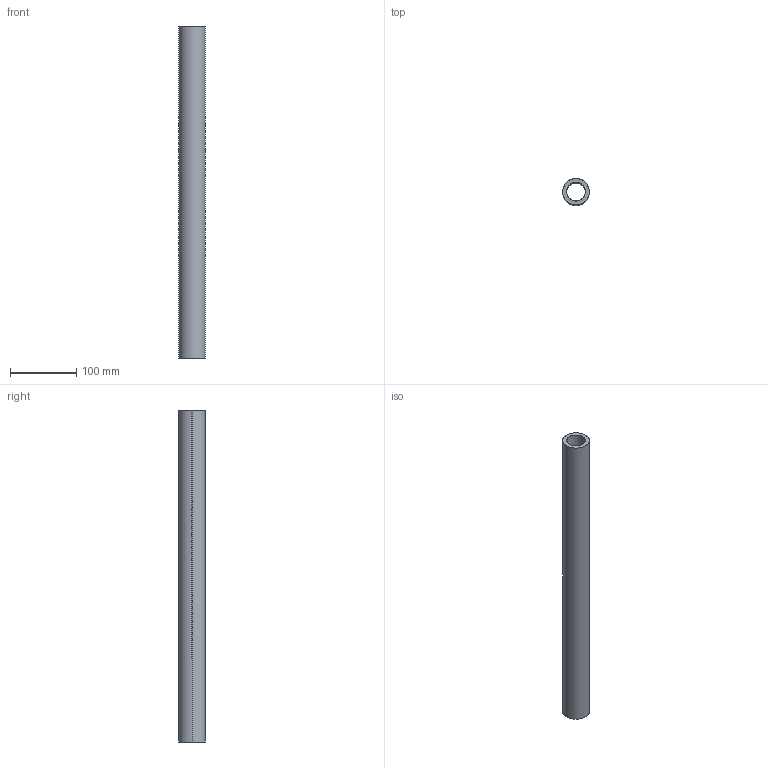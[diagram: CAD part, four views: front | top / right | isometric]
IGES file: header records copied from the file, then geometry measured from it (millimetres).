
Start section: SolidWorks IGES file using analytic representation for surfaces
Global section: file name: C:\Users\IanO\Desktop\L1771_v2\L1771.40_v2\L1771.40_v2_20230705_IGES\L1771.40-0500.igs; native system: SolidWorks 2019; preprocessor: SolidWorks 2019; author: IanO; date: 230705.160013; units: millimetre
Bounding box: 40 x 40 x 500 mm (x, y, z)
Surface area: 108095.9 mm2 (no closed solid volume)
Topology: 0 solids, 0 shells, 6 faces, 272 edges, 272 vertices
Faces by surface type: revolution 4, bspline 2
